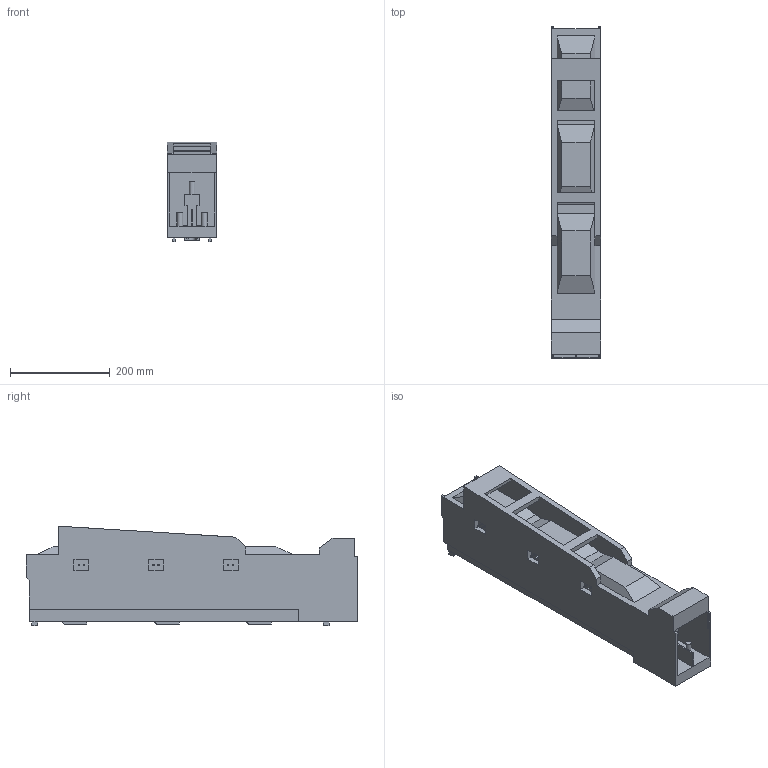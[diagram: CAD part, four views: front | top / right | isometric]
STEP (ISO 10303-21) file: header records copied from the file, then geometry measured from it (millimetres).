
FILE_DESCRIPTION (( 'STEP AP203' ), '1' );
FILE_NAME ('OptiVert-2-6-M-NB.STEP', '2025-05-15T07:36:58', ( '' ), ( '' ), 'SwSTEP 2.0', 'SolidWorks 2018', '' );
FILE_SCHEMA (( 'CONFIG_CONTROL_DESIGN' ));
Length unit declared in the file: millimetre
Products named in the file (1): OptiVert-2-6-M-NB
Bounding box: 100 x 666 x 200 mm (x, y, z)
Volume: 7904518.4 mm3; surface area: 546517.7 mm2
Topology: 1 solids, 1 shells, 231 faces, 610 edges, 400 vertices
Faces by surface type: plane 195, cylinder 36
Entity records: 7133 total; most frequent: CARTESIAN_POINT 1242, ORIENTED_EDGE 1220, DIRECTION 1146, EDGE_CURVE 610, LINE 538, VECTOR 538, VERTEX_POINT 400, AXIS2_PLACEMENT_3D 304
